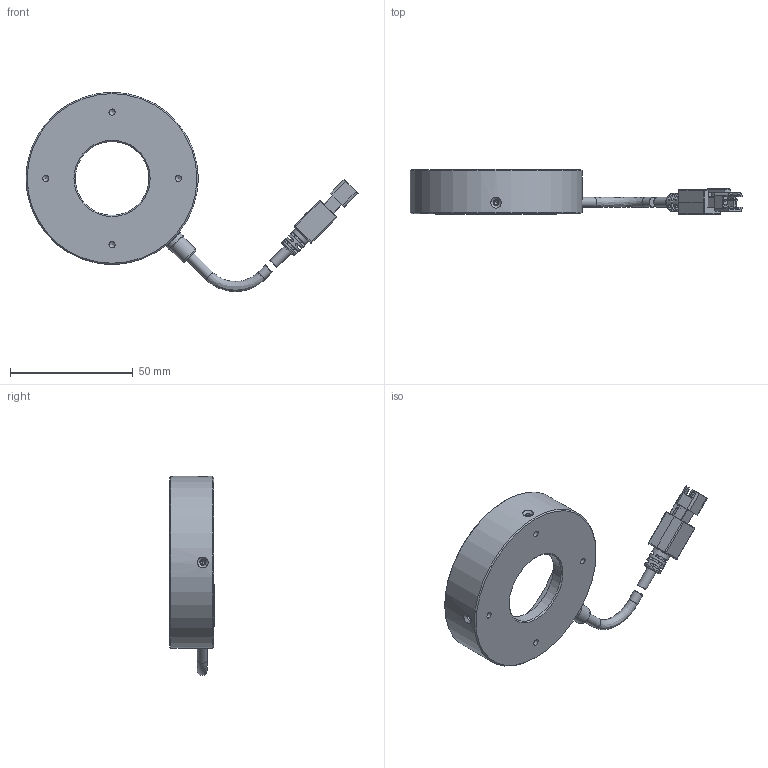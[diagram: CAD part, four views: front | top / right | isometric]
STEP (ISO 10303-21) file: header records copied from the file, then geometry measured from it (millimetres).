
FILE_DESCRIPTION (( 'STEP AP203' ), '1' );
FILE_NAME ('OPT-IRI7030-IR-V2.0.STEP', '2025-02-15T00:17:04', ( '' ), ( '' ), 'SwSTEP 2.0', 'SolidWorks 2016', '' );
FILE_SCHEMA (( 'CONFIG_CONTROL_DESIGN' ));
Length unit declared in the file: millimetre
Products named in the file (1): OPT-IRI7030-IR-V2.0
Bounding box: 135.04 x 18.2 x 81.03 mm (x, y, z)
Volume: 38503.6 mm3; surface area: 19408.8 mm2
Topology: 7 solids, 7 shells, 357 faces, 919 edges, 580 vertices
Faces by surface type: plane 175, cylinder 120, cone 31, bspline 21, torus 6, sphere 4
Full cylindrical faces by diameter (mm): 1.1 x4, 1.6 x4, 2 x4, 2.4 x4, 2.5 x4, 3.5 x1, 4.1 x4, 5.8 x1, 7.5 x2, 8 x1, 30 x1, 31.8 x1, 62 x1, 66 x1, 70 x1
Entity records: 11973 total; most frequent: CARTESIAN_POINT 3833, DIRECTION 1622, ORIENTED_EDGE 1618, EDGE_CURVE 809, AXIS2_PLACEMENT_3D 565, VERTEX_POINT 546, VECTOR 492, LINE 492
